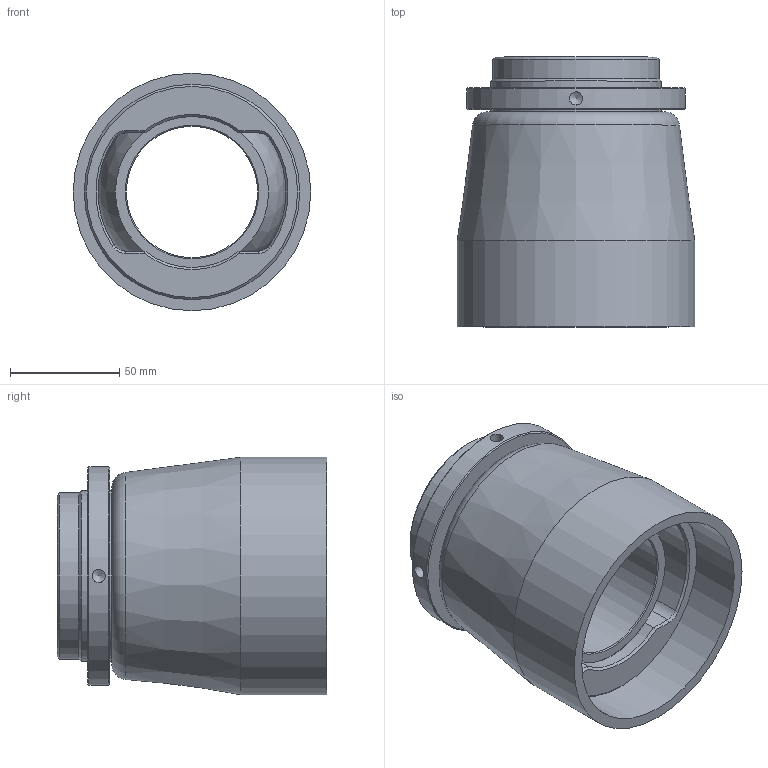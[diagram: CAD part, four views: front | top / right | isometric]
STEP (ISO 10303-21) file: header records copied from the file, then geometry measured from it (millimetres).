
FILE_DESCRIPTION(('STEP AP214'),'1');
FILE_NAME('Z:/J/Jp3/Palier/Palier-type1/3D TopSolid 2011/Serie 10.xx.xx/10.14.xx/10.14.06.step','2012-02-23T13:27:32',(' '),(' '),'Spatial InterOp 3D',' ',' ');
FILE_SCHEMA(('automotive_design'));
Length unit declared in the file: metre
Products named in the file (4): boitier 06; rotule 06; ecrou; hansing 06
Bounding box: 108.5 x 123.28 x 108.5 mm (x, y, z)
Volume: 454590.1 mm3; surface area: 158138.3 mm2
Topology: 4 solids, 4 shells, 69 faces, 148 edges, 89 vertices
Faces by surface type: cylinder 23, cone 22, plane 19, torus 3, sphere 2
Full cylindrical faces by diameter (mm): 6 x3, 60 x1, 69 x1, 70.1 x1, 76 x1, 78 x4, 98.5 x2, 100 x1, 108.5 x1
Entity records: 2483 total; most frequent: CARTESIAN_POINT 525, DIRECTION 304, ORIENTED_EDGE 208, AXIS2_PLACEMENT_3D 138, EDGE_LOOP 114, EDGE_CURVE 104, FACE_OUTER_BOUND 89, VERTEX_POINT 83
